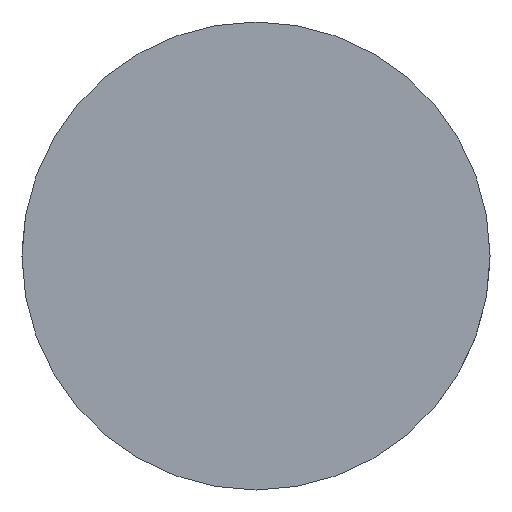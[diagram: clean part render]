
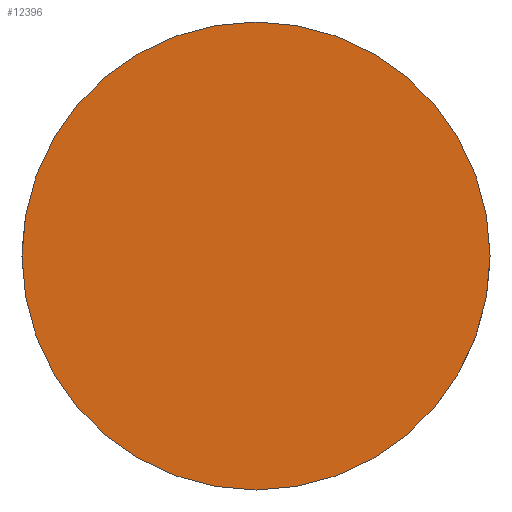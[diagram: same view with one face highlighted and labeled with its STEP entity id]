
A CAD part, front view. The second image highlights one B-rep face of the part: STEP entity #12396.
In plain terms, the highlighted planar face has unit normal (0, -1, 0).
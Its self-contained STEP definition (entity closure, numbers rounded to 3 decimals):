
#572 = DIRECTION ( 'NONE',  ( 0., 0., 1. ) ) ;
#744 = EDGE_CURVE ( 'NONE', #10288, #18540, #15669, .T. ) ;
#865 = AXIS2_PLACEMENT_3D ( 'NONE', #8968, #19487, #572 ) ;
#1582 = CARTESIAN_POINT ( 'NONE',  ( 0., 0., 40. ) ) ;
#2308 = FACE_OUTER_BOUND ( 'NONE', #16236, .T. ) ;
#2930 = CARTESIAN_POINT ( 'NONE',  ( 0., 0., 0. ) ) ;
#4863 = CARTESIAN_POINT ( 'NONE',  ( 0., 0., -40. ) ) ;
#5845 = ORIENTED_EDGE ( 'NONE', *, *, #16499, .F. ) ;
#6495 = CARTESIAN_POINT ( 'NONE',  ( -40., 0., 0. ) ) ;
#8968 = CARTESIAN_POINT ( 'NONE',  ( 0., 0., 0. ) ) ;
#9874 = DIRECTION ( 'NONE',  ( 0., 0., -1. ) ) ;
#10288 = VERTEX_POINT ( 'NONE', #4863 ) ;
#10827 = PLANE ( 'NONE',  #20808 ) ;
#11563 = ORIENTED_EDGE ( 'NONE', *, *, #744, .F. ) ;
#12396 = ADVANCED_FACE ( 'NONE', ( #2308 ), #10827, .T. ) ;
#13760 = CIRCLE ( 'NONE', #14384, 40. ) ;
#14384 = AXIS2_PLACEMENT_3D ( 'NONE', #2930, #21322, #16406 ) ;
#15669 = CIRCLE ( 'NONE', #865, 40. ) ;
#16236 = EDGE_LOOP ( 'NONE', ( #5845, #11563 ) ) ;
#16360 = DIRECTION ( 'NONE',  ( 0., -1., 0. ) ) ;
#16406 = DIRECTION ( 'NONE',  ( 0., 0., 1. ) ) ;
#16499 = EDGE_CURVE ( 'NONE', #18540, #10288, #13760, .T. ) ;
#18540 = VERTEX_POINT ( 'NONE', #1582 ) ;
#19487 = DIRECTION ( 'NONE',  ( 0., 1., 0. ) ) ;
#20808 = AXIS2_PLACEMENT_3D ( 'NONE', #6495, #16360, #9874 ) ;
#21322 = DIRECTION ( 'NONE',  ( 0., 1., 0. ) ) ;
